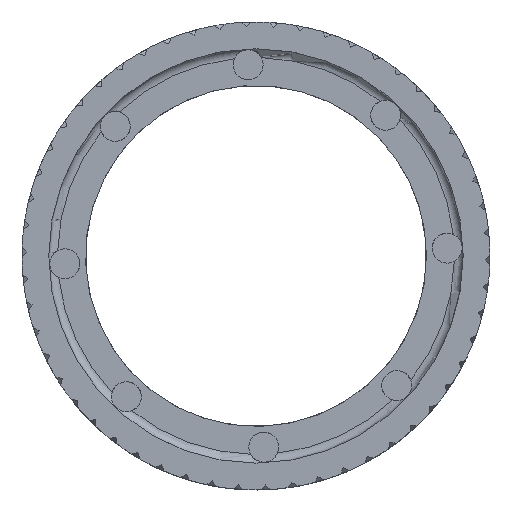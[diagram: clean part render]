
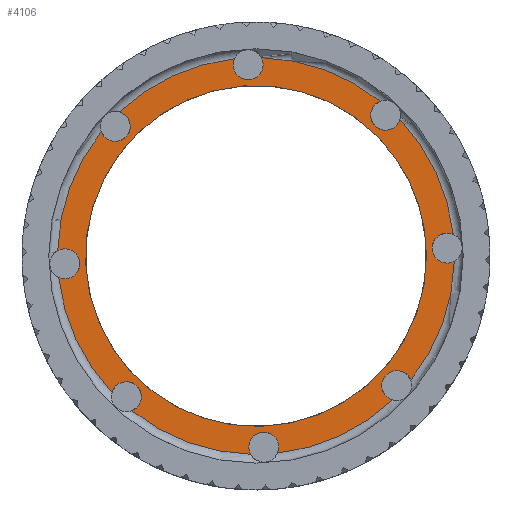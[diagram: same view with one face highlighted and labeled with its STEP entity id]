
A CAD part, top view. The second image highlights one B-rep face of the part: STEP entity #4106.
In plain terms, the highlighted planar face has unit normal (0, 0, 1).
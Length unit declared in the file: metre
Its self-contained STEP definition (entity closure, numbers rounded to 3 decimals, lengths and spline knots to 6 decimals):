
#792=ORIENTED_EDGE('',*,*,#2190,.T.);
#793=ORIENTED_EDGE('',*,*,#2191,.T.);
#794=ORIENTED_EDGE('',*,*,#2192,.T.);
#795=ORIENTED_EDGE('',*,*,#2193,.T.);
#796=ORIENTED_EDGE('',*,*,#2194,.T.);
#797=ORIENTED_EDGE('',*,*,#2195,.T.);
#798=ORIENTED_EDGE('',*,*,#2196,.T.);
#799=ORIENTED_EDGE('',*,*,#2197,.T.);
#800=ORIENTED_EDGE('',*,*,#2198,.T.);
#801=ORIENTED_EDGE('',*,*,#2199,.T.);
#802=ORIENTED_EDGE('',*,*,#2200,.T.);
#803=ORIENTED_EDGE('',*,*,#2201,.T.);
#804=ORIENTED_EDGE('',*,*,#2202,.T.);
#805=ORIENTED_EDGE('',*,*,#2203,.T.);
#806=ORIENTED_EDGE('',*,*,#2204,.T.);
#807=ORIENTED_EDGE('',*,*,#2205,.T.);
#808=ORIENTED_EDGE('',*,*,#2206,.T.);
#2190=EDGE_CURVE('',#2889,#2890,#3360,.F.);
#2191=EDGE_CURVE('',#2890,#2891,#3361,.T.);
#2192=EDGE_CURVE('',#2891,#2892,#3362,.F.);
#2193=EDGE_CURVE('',#2892,#2893,#3363,.T.);
#2194=EDGE_CURVE('',#2893,#2894,#3364,.F.);
#2195=EDGE_CURVE('',#2894,#2895,#3365,.T.);
#2196=EDGE_CURVE('',#2895,#2896,#3366,.F.);
#2197=EDGE_CURVE('',#2896,#2897,#3367,.T.);
#2198=EDGE_CURVE('',#2897,#2898,#3368,.F.);
#2199=EDGE_CURVE('',#2898,#2899,#3369,.T.);
#2200=EDGE_CURVE('',#2899,#2900,#3370,.F.);
#2201=EDGE_CURVE('',#2900,#2901,#3371,.T.);
#2202=EDGE_CURVE('',#2901,#2902,#3372,.F.);
#2203=EDGE_CURVE('',#2902,#2903,#3373,.T.);
#2204=EDGE_CURVE('',#2903,#2904,#3374,.F.);
#2205=EDGE_CURVE('',#2904,#2889,#3375,.T.);
#2206=EDGE_CURVE('',#2905,#2905,#3376,.T.);
#2889=VERTEX_POINT('',#5125);
#2890=VERTEX_POINT('',#5126);
#2891=VERTEX_POINT('',#5128);
#2892=VERTEX_POINT('',#5130);
#2893=VERTEX_POINT('',#5132);
#2894=VERTEX_POINT('',#5134);
#2895=VERTEX_POINT('',#5136);
#2896=VERTEX_POINT('',#5138);
#2897=VERTEX_POINT('',#5140);
#2898=VERTEX_POINT('',#5142);
#2899=VERTEX_POINT('',#5144);
#2900=VERTEX_POINT('',#5146);
#2901=VERTEX_POINT('',#5148);
#2902=VERTEX_POINT('',#5150);
#2903=VERTEX_POINT('',#5152);
#2904=VERTEX_POINT('',#5154);
#2905=VERTEX_POINT('',#5157);
#3360=CIRCLE('',#4366,0.03375);
#3361=CIRCLE('',#4367,0.00255);
#3362=CIRCLE('',#4368,0.03375);
#3363=CIRCLE('',#4369,0.00255);
#3364=CIRCLE('',#4370,0.03375);
#3365=CIRCLE('',#4371,0.00255);
#3366=CIRCLE('',#4372,0.03375);
#3367=CIRCLE('',#4373,0.00255);
#3368=CIRCLE('',#4374,0.03375);
#3369=CIRCLE('',#4375,0.00255);
#3370=CIRCLE('',#4376,0.03375);
#3371=CIRCLE('',#4377,0.00255);
#3372=CIRCLE('',#4378,0.03375);
#3373=CIRCLE('',#4379,0.00255);
#3374=CIRCLE('',#4380,0.03375);
#3375=CIRCLE('',#4381,0.00255);
#3376=CIRCLE('',#4382,0.029);
#3501=EDGE_LOOP('',(#792,#793,#794,#795,#796,#797,#798,#799,#800,#801,#802,
#803,#804,#805,#806,#807));
#3502=EDGE_LOOP('',(#808));
#3765=FACE_BOUND('',#3501,.T.);
#3766=FACE_BOUND('',#3502,.T.);
#4029=PLANE('',#4365);
#4106=ADVANCED_FACE('',(#3765,#3766),#4029,.F.);
#4365=AXIS2_PLACEMENT_3D('',#5123,#4601,#4602);
#4366=AXIS2_PLACEMENT_3D('',#5124,#4603,#4604);
#4367=AXIS2_PLACEMENT_3D('',#5127,#4605,#4606);
#4368=AXIS2_PLACEMENT_3D('',#5129,#4607,#4608);
#4369=AXIS2_PLACEMENT_3D('',#5131,#4609,#4610);
#4370=AXIS2_PLACEMENT_3D('',#5133,#4611,#4612);
#4371=AXIS2_PLACEMENT_3D('',#5135,#4613,#4614);
#4372=AXIS2_PLACEMENT_3D('',#5137,#4615,#4616);
#4373=AXIS2_PLACEMENT_3D('',#5139,#4617,#4618);
#4374=AXIS2_PLACEMENT_3D('',#5141,#4619,#4620);
#4375=AXIS2_PLACEMENT_3D('',#5143,#4621,#4622);
#4376=AXIS2_PLACEMENT_3D('',#5145,#4623,#4624);
#4377=AXIS2_PLACEMENT_3D('',#5147,#4625,#4626);
#4378=AXIS2_PLACEMENT_3D('',#5149,#4627,#4628);
#4379=AXIS2_PLACEMENT_3D('',#5151,#4629,#4630);
#4380=AXIS2_PLACEMENT_3D('',#5153,#4631,#4632);
#4381=AXIS2_PLACEMENT_3D('',#5155,#4633,#4634);
#4382=AXIS2_PLACEMENT_3D('',#5156,#4635,#4636);
#4601=DIRECTION('',(0.,0.,-1.));
#4602=DIRECTION('',(0.819,0.574,0.));
#4603=DIRECTION('',(0.,0.,-1.));
#4604=DIRECTION('',(1.,0.,0.));
#4605=DIRECTION('',(0.,0.,-1.));
#4606=DIRECTION('',(1.,0.,0.));
#4607=DIRECTION('',(0.,0.,-1.));
#4608=DIRECTION('',(1.,0.,0.));
#4609=DIRECTION('',(0.,0.,-1.));
#4610=DIRECTION('',(1.,0.,0.));
#4611=DIRECTION('',(0.,0.,-1.));
#4612=DIRECTION('',(1.,0.,0.));
#4613=DIRECTION('',(0.,0.,-1.));
#4614=DIRECTION('',(1.,0.,0.));
#4615=DIRECTION('',(0.,0.,-1.));
#4616=DIRECTION('',(1.,0.,0.));
#4617=DIRECTION('',(0.,0.,-1.));
#4618=DIRECTION('',(1.,0.,0.));
#4619=DIRECTION('',(0.,0.,-1.));
#4620=DIRECTION('',(1.,0.,0.));
#4621=DIRECTION('',(0.,0.,-1.));
#4622=DIRECTION('',(1.,0.,0.));
#4623=DIRECTION('',(0.,0.,-1.));
#4624=DIRECTION('',(1.,0.,0.));
#4625=DIRECTION('',(0.,0.,-1.));
#4626=DIRECTION('',(1.,0.,0.));
#4627=DIRECTION('',(0.,0.,-1.));
#4628=DIRECTION('',(1.,0.,0.));
#4629=DIRECTION('',(0.,0.,-1.));
#4630=DIRECTION('',(1.,0.,0.));
#4631=DIRECTION('',(0.,0.,-1.));
#4632=DIRECTION('',(1.,0.,0.));
#4633=DIRECTION('',(0.,0.,-1.));
#4634=DIRECTION('',(1.,0.,0.));
#4635=DIRECTION('',(0.,0.,-1.));
#4636=DIRECTION('',(1.,0.,0.));
#5123=CARTESIAN_POINT('',(0.,0.,0.0748));
#5124=CARTESIAN_POINT('',(0.,0.,0.0748));
#5125=CARTESIAN_POINT('',(-0.026318,0.021129,0.0748));
#5126=CARTESIAN_POINT('',(-0.033738,0.000906,0.0748));
#5127=CARTESIAN_POINT('',(-0.032523,-0.001336,0.0748));
#5128=CARTESIAN_POINT('',(-0.03355,-0.00367,0.0748));
#5129=CARTESIAN_POINT('',(0.,0.,0.0748));
#5130=CARTESIAN_POINT('',(-0.024497,-0.023216,0.0748));
#5131=CARTESIAN_POINT('',(-0.022052,-0.023941,0.0748));
#5132=CARTESIAN_POINT('',(-0.021129,-0.026318,0.0748));
#5133=CARTESIAN_POINT('',(0.,0.,0.0748));
#5134=CARTESIAN_POINT('',(-0.000906,-0.033738,0.0748));
#5135=CARTESIAN_POINT('',(0.001336,-0.032523,0.0748));
#5136=CARTESIAN_POINT('',(0.00367,-0.03355,0.0748));
#5137=CARTESIAN_POINT('',(0.,0.,0.0748));
#5138=CARTESIAN_POINT('',(0.023216,-0.024497,0.0748));
#5139=CARTESIAN_POINT('',(0.023941,-0.022052,0.0748));
#5140=CARTESIAN_POINT('',(0.026318,-0.021129,0.0748));
#5141=CARTESIAN_POINT('',(0.,0.,0.0748));
#5142=CARTESIAN_POINT('',(0.033738,-0.000906,0.0748));
#5143=CARTESIAN_POINT('',(0.032523,0.001336,0.0748));
#5144=CARTESIAN_POINT('',(0.03355,0.00367,0.0748));
#5145=CARTESIAN_POINT('',(0.,0.,0.0748));
#5146=CARTESIAN_POINT('',(0.024497,0.023216,0.0748));
#5147=CARTESIAN_POINT('',(0.022052,0.023941,0.0748));
#5148=CARTESIAN_POINT('',(0.021129,0.026318,0.0748));
#5149=CARTESIAN_POINT('',(0.,0.,0.0748));
#5150=CARTESIAN_POINT('',(0.000906,0.033738,0.0748));
#5151=CARTESIAN_POINT('',(-0.001336,0.032523,0.0748));
#5152=CARTESIAN_POINT('',(-0.00367,0.03355,0.0748));
#5153=CARTESIAN_POINT('',(0.,0.,0.0748));
#5154=CARTESIAN_POINT('',(-0.023216,0.024497,0.0748));
#5155=CARTESIAN_POINT('',(-0.023941,0.022052,0.0748));
#5156=CARTESIAN_POINT('',(0.,0.,0.0748));
#5157=CARTESIAN_POINT('',(0.029,0.,0.0748));
